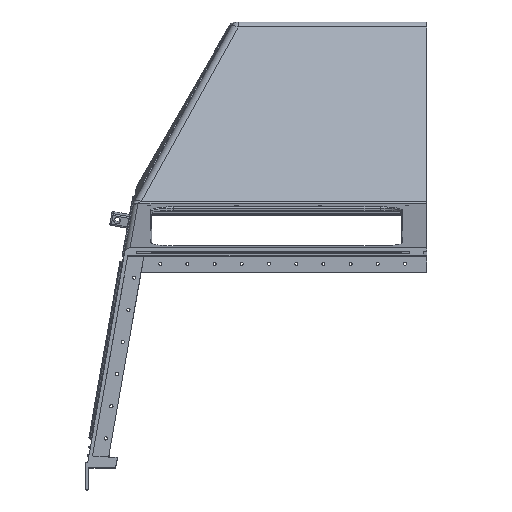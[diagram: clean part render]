
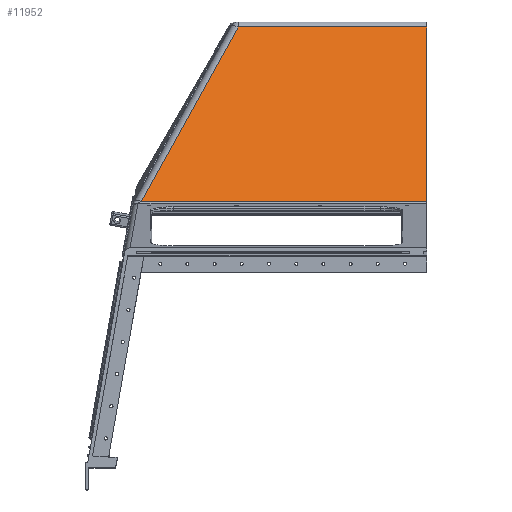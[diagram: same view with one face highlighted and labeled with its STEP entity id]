
A CAD part, top view. The second image highlights one B-rep face of the part: STEP entity #11952.
In plain terms, the highlighted planar face has unit normal (0, 0.342, 0.94).
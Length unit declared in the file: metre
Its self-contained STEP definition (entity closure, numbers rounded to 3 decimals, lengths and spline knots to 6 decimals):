
#2218=ORIENTED_EDGE('',*,*,#5408,.F.);
#2219=ORIENTED_EDGE('',*,*,#5409,.F.);
#2220=ORIENTED_EDGE('',*,*,#5094,.F.);
#2221=ORIENTED_EDGE('',*,*,#5410,.F.);
#5094=EDGE_CURVE('',#6705,#6706,#7761,.T.);
#5408=EDGE_CURVE('',#6968,#6969,#7970,.F.);
#5409=EDGE_CURVE('',#6706,#6968,#7971,.F.);
#5410=EDGE_CURVE('',#6969,#6705,#7972,.T.);
#6705=VERTEX_POINT('',#18976);
#6706=VERTEX_POINT('',#18978);
#6968=VERTEX_POINT('',#19636);
#6969=VERTEX_POINT('',#19637);
#7761=LINE('',#18977,#8580);
#7970=LINE('',#19635,#8789);
#7971=LINE('',#19638,#8790);
#7972=LINE('',#19639,#8791);
#8580=VECTOR('',#14867,1.);
#8789=VECTOR('',#15370,1.);
#8790=VECTOR('',#15371,1.);
#8791=VECTOR('',#15372,1.);
#9348=EDGE_LOOP('',(#2218,#2219,#2220,#2221));
#10537=FACE_BOUND('',#9348,.T.);
#11583=PLANE('',#13008);
#11952=ADVANCED_FACE('Face appearance 1',(#10537),#11583,.F.);
#13008=AXIS2_PLACEMENT_3D('',#19634,#15368,#15369);
#14867=DIRECTION('',(0.,-0.94,0.342));
#15368=DIRECTION('',(0.,-0.342,-0.94));
#15369=DIRECTION('',(-1.,0.,0.));
#15370=DIRECTION('',(-0.462,-0.833,0.303));
#15371=DIRECTION('',(1.,0.,0.));
#15372=DIRECTION('',(1.,0.,0.));
#18976=CARTESIAN_POINT('',(0.,0.405394,0.464594));
#18977=CARTESIAN_POINT('',(0.,0.558779,0.408766));
#18978=CARTESIAN_POINT('',(0.,0.244815,0.52304));
#19634=CARTESIAN_POINT('',(-0.0025,0.558779,0.408766));
#19635=CARTESIAN_POINT('',(-0.172202,0.407577,0.463799));
#19636=CARTESIAN_POINT('',(-0.26241,0.244815,0.52304));
#19637=CARTESIAN_POINT('',(-0.173412,0.405394,0.464594));
#19638=CARTESIAN_POINT('',(-0.0025,0.244815,0.52304));
#19639=CARTESIAN_POINT('',(0.,0.405394,0.464594));
